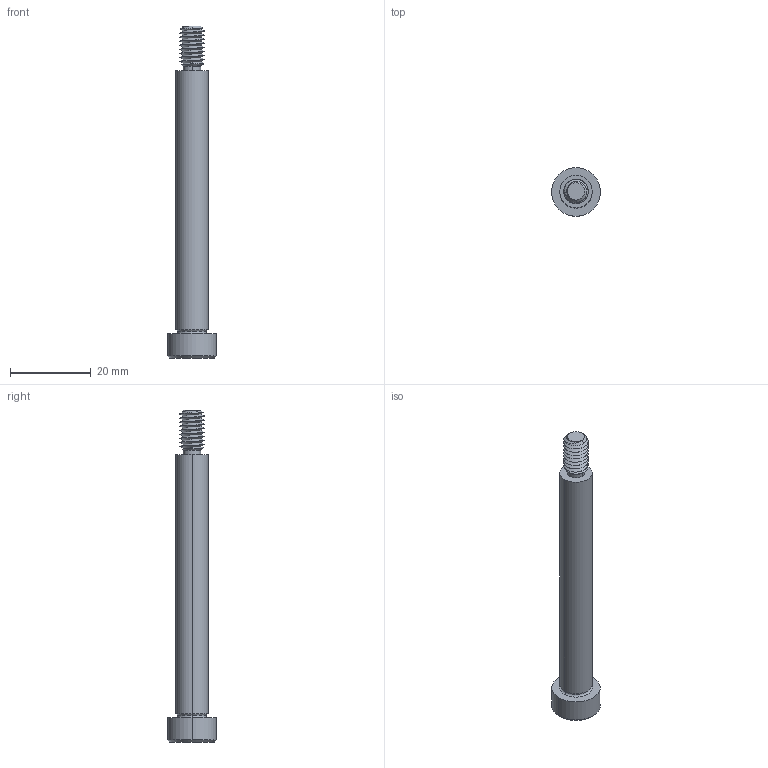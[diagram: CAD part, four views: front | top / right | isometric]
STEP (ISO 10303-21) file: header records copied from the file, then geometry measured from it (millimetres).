
FILE_DESCRIPTION (( 'STEP AP203' ), '1' );
FILE_NAME ('P0130.080-065-B2.step', '2021-11-09T21:43:41', ( '' ), ( '' ), 'SwSTEP 2.0', 'SolidWorks 2019', '' );
FILE_SCHEMA (( 'CONFIG_CONTROL_DESIGN' ));
Length unit declared in the file: millimetre
Products named in the file (1): P0130.080-065-B2
Bounding box: 12 x 12 x 82 mm (x, y, z)
Volume: 4099.7 mm3; surface area: 2466.5 mm2
Topology: 1 solids, 1 shells, 60 faces, 142 edges, 85 vertices
Faces by surface type: cylinder 24, plane 16, cone 14, torus 4, bspline 2
Entity records: 4245 total; most frequent: CARTESIAN_POINT 2899, ORIENTED_EDGE 280, DIRECTION 247, EDGE_CURVE 140, AXIS2_PLACEMENT_3D 99, VERTEX_POINT 85, EDGE_LOOP 63, FACE_OUTER_BOUND 60
